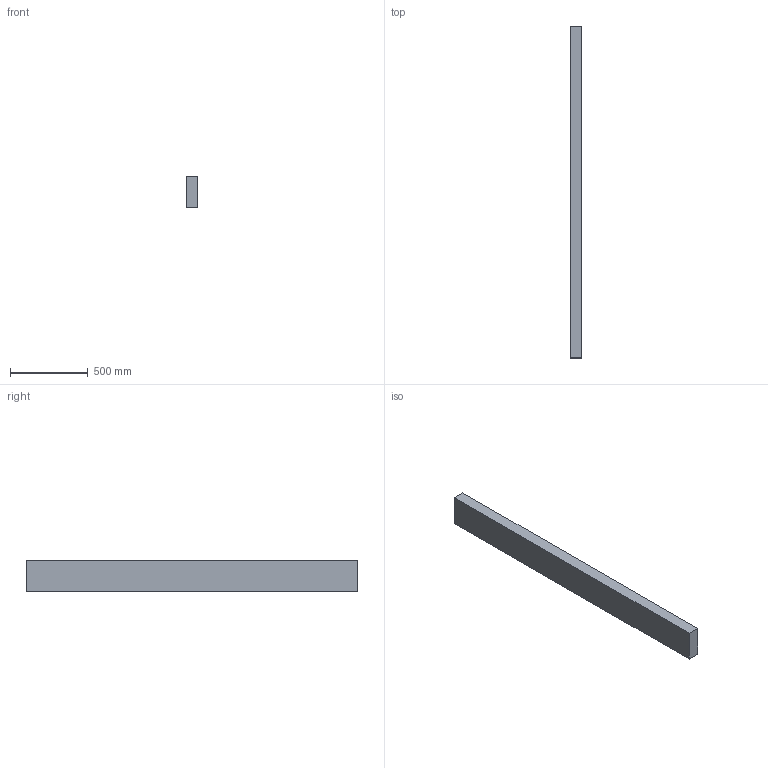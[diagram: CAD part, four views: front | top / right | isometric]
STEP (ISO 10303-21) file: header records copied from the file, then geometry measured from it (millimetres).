
FILE_DESCRIPTION(/* description */ (''),/* implementation_level */ '2;1');
FILE_NAME(/* name */ '3x8x84',/* time_stamp */ '2024-09-20T11:43:51-05:00',/* author */ (''),/* organization */ (''),/* preprocessor_version */ 'ST-DEVELOPER v19.2',/* originating_system */ 'Rhino 8.5',/* authorisation */ '');
FILE_SCHEMA (('CONFIG_CONTROL_DESIGN'));
Length unit declared in the file: inch
Products named in the file (1): Document
Bounding box: 76.2 x 2133.6 x 203.2 mm (x, y, z)
Volume: 33036321 mm3; surface area: 1223223.4 mm2
Topology: 1 solids, 1 shells, 6 faces, 12 edges, 8 vertices
Faces by surface type: plane 6
Entity records: 226 total; most frequent: CARTESIAN_POINT 40, ORIENTED_EDGE 24, EDGE_CURVE 12, B_SPLINE_CURVE_WITH_KNOTS 12, DIRECTION 10, VERTEX_POINT 8, AXIS2_PLACEMENT_3D 8, ORGANIZATION 7
